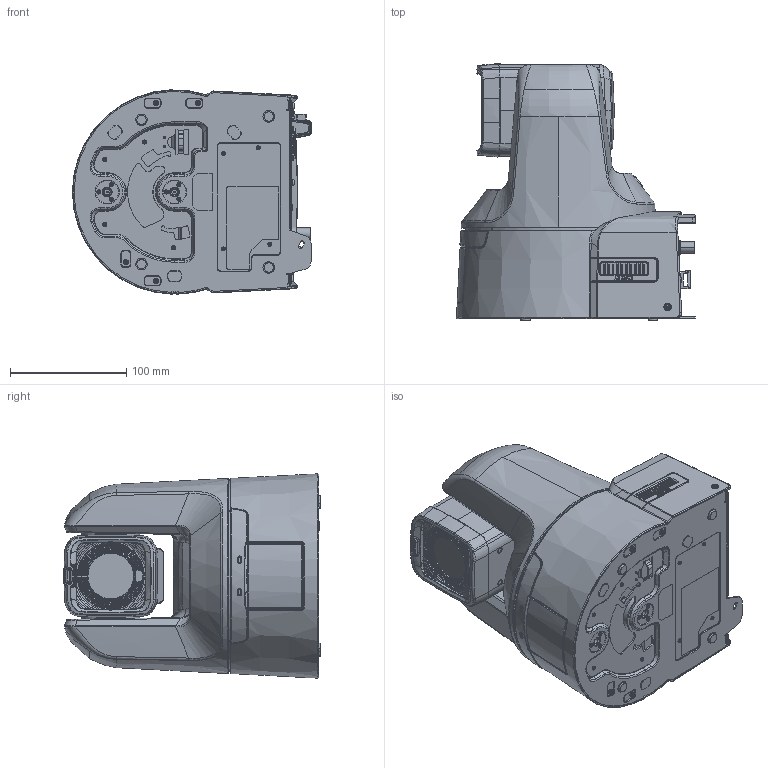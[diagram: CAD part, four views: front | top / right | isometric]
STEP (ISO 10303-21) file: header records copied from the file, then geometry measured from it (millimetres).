
FILE_DESCRIPTION(/* description */ ('AP214 STEP file'),/* implementation_level */ '2;1');
FILE_NAME(/* name */ 'AAA0612B000016354449_001_3D_CR_N350_3D_STEP.stp',/* time_stamp */ '2025-09-19T13:27:11+09:00',/* author */ (''),/* organization */ (''),/* preprocessor_version */ 'ST-DEVELOPER v20',/* originating_system */ 'Elysium STEP Translator v10.0.4.1',/* authorisation */ '');
FILE_SCHEMA (('AUTOMOTIVE_DESIGN { 1 0 10303 214 3 1 1 }'));
Length unit declared in the file: millimetre
Products named in the file (1): AAA0612B000016354449_001_3D_CR_N350_3D_STEP
Bounding box: 205.82 x 220.86 x 175.8 mm (x, y, z)
Volume: 4089925.7 mm3; surface area: 294812.3 mm2
Topology: 3 solids, 16 shells, 4739 faces, 12069 edges, 7460 vertices
Faces by surface type: plane 1814, cylinder 1329, bspline 823, cone 265, sphere 230, torus 218, extrusion 60
Entity records: 194319 total; most frequent: CARTESIAN_POINT 81996, ORIENTED_EDGE 23982, STYLED_ITEM 21464, EDGE_CURVE 11991, AXIS2_PLACEMENT_3D 7589, VERTEX_POINT 7460, VECTOR 5880, LINE 5820
